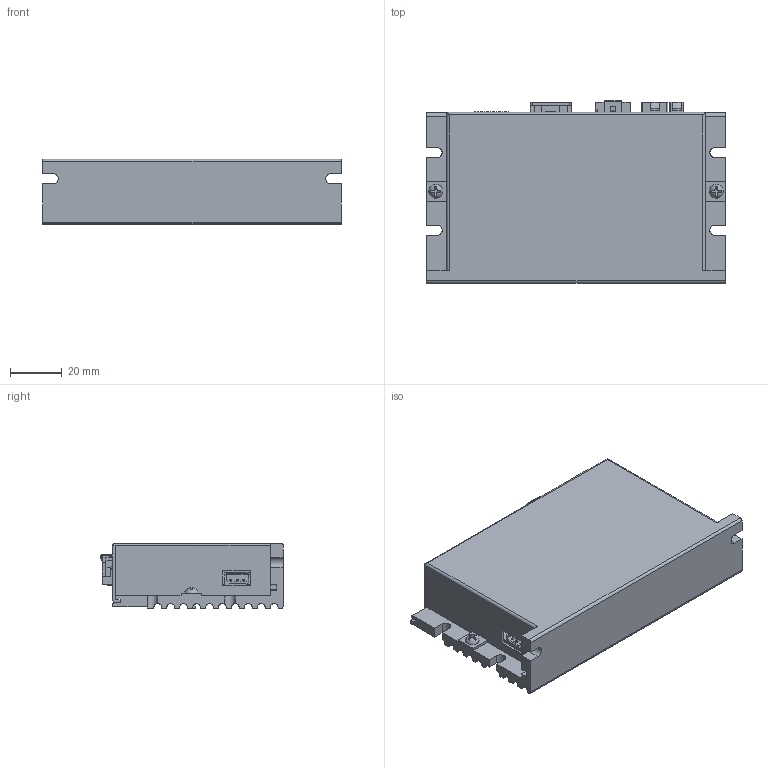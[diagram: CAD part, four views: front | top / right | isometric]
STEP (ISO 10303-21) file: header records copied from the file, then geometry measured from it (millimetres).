
FILE_DESCRIPTION(/* description */ (''),/* implementation_level */ '2;1');
FILE_NAME(/* name */ '\\EMN0D5F01\rp_inventor\RP Mechanical Design\Wiley\Updated Models\ECLD-4DC-SD.stp',/* time_stamp */ '2016-10-27T14:29:45-07:00',/* author */ ('JDB'),/* organization */ ('Parker Hannifin Corp'),/* preprocessor_version */ 'ST-DEVELOPER v15.2',/* originating_system */ 'Autodesk Inventor 2014',/* authorisation */ '');
FILE_SCHEMA (('CONFIG_CONTROL_DESIGN'));
Length unit declared in the file: inch
Products named in the file (1): ECLD-4DC-SD_sw
Bounding box: 115.5 x 70.5 x 25.3 mm (x, y, z)
Volume: 65154.8 mm3; surface area: 64019.2 mm2
Topology: 1 solids, 1 shells, 1474 faces, 4097 edges, 2656 vertices
Faces by surface type: plane 1300, cylinder 147, cone 14, bspline 9, torus 2, sphere 2
Full cylindrical faces by diameter (mm): 0.7 x12, 3 x2, 3.5 x4, 5 x2
Entity records: 46851 total; most frequent: CARTESIAN_POINT 8907, ORIENTED_EDGE 8118, DIRECTION 7314, EDGE_CURVE 4058, LINE 3666, VECTOR 3666, VERTEX_POINT 2647, AXIS2_PLACEMENT_3D 1824
